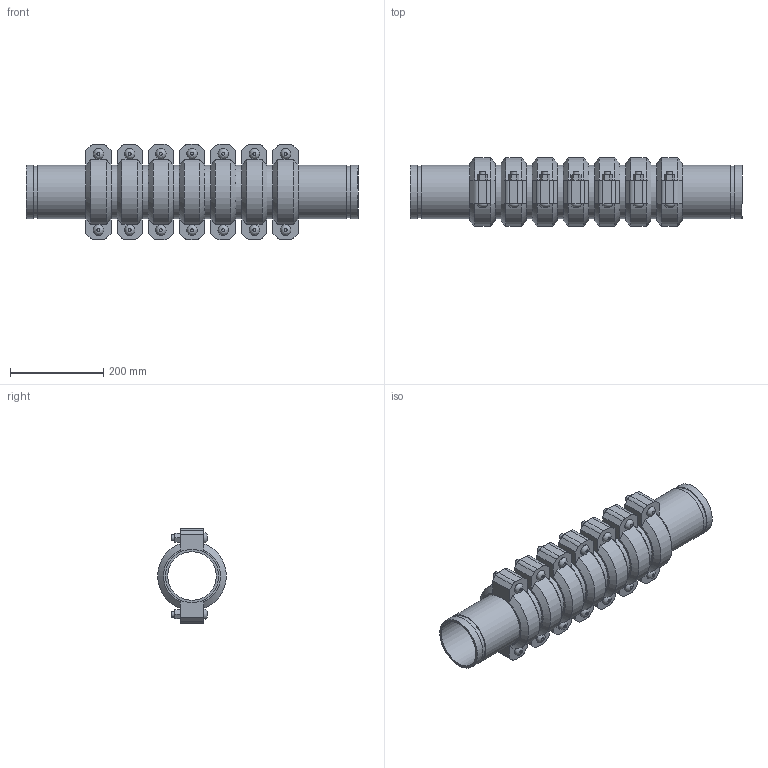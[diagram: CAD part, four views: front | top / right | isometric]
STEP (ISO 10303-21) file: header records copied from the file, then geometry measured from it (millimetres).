
FILE_DESCRIPTION(/* description */ ('VIC EXPANSION JOINT 7 COUPLINGS EXPANDED STYLE 155 (OGS)','CAx-IF Rec.Pracs.---Representation and Presentation of Product Manufacturing Information (PMI)---4.0---2014-10-13'),/* implementation_level */ '2;1');
FILE_NAME(/* name */ 'C:\Users\kkamble\AppData\Roaming\Autodesk\ApplicationPlugins\Victaulic.Temp\A179\Victaulic_IPS_Expansion Joint_Expanded_7 Couplings_Style 155 (OGS)_4 (100).stp',/* time_stamp */ '2021-06-27T00:06:56+02:00',/* author */ ('kkamble'),/* organization */ ('Victaulic'),/* preprocessor_version */ 'ST-DEVELOPER v17.2',/* originating_system */ 'Autodesk Inventor 2019',/* authorisation */ '');
FILE_SCHEMA (('AP242_MANAGED_MODEL_BASED_3D_ENGINEERING_MIM_LF { 1 0 10303 442 1 1 4 }'));
Length unit declared in the file: inch
Products named in the file (4): 155-04.0; Nipple-04.0; Nipple-04.0_1; 075-04.0
Assembly tree (15 placements, depth 2):
  155-04.0
    Nipple-04.0  x2
    Nipple-04.0_1  x6
    075-04.0  x7
Bounding box: 711.2 x 147.32 x 203.96 mm (x, y, z)
Volume: 4486906.1 mm3; surface area: 1067736.7 mm2
Topology: 15 solids, 29 shells, 495 faces, 1171 edges, 822 vertices
Faces by surface type: plane 300, cylinder 153, cone 28, bspline 14
Full cylindrical faces by diameter (mm): 12.7 x28, 14.605 x14, 103.988 x8, 107.95 x7, 110.084 x16, 114.3 x38
Entity records: 2833 total; most frequent: CARTESIAN_POINT 499, DIRECTION 473, ORIENTED_EDGE 386, EDGE_CURVE 193, AXIS2_PLACEMENT_3D 190, VERTEX_POINT 138, EDGE_LOOP 107, LINE 93
